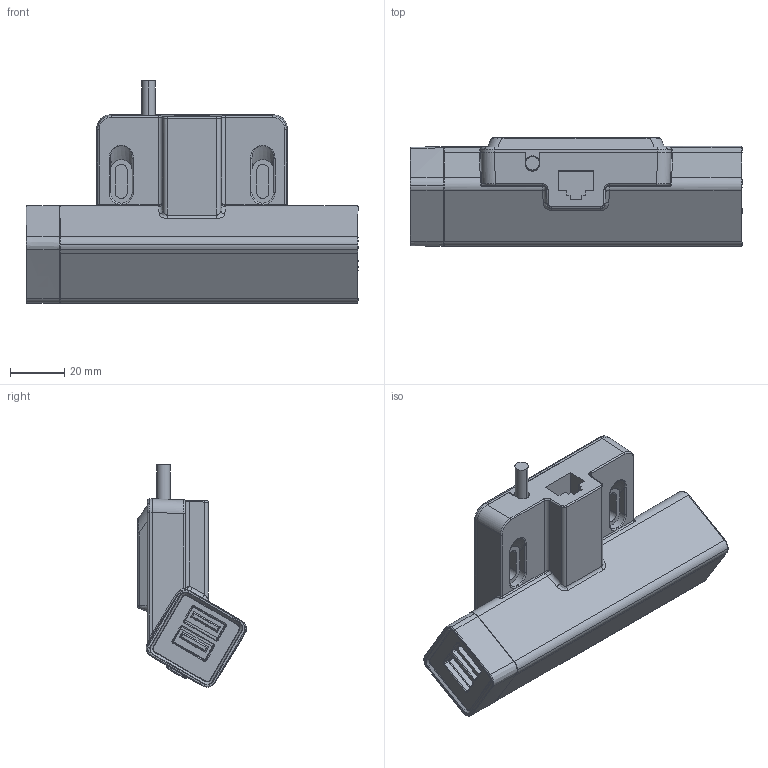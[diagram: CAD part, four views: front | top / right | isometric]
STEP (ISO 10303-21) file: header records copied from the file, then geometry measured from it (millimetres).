
FILE_DESCRIPTION (( 'STEP AP203' ), '1' );
FILE_NAME ('3D_TDH20P.STEP', '2019-11-29T05:48:37', ( '' ), ( '' ), 'SwSTEP 2.0', 'SolidWorks 2015', '' );
FILE_SCHEMA (( 'CONFIG_CONTROL_DESIGN' ));
Length unit declared in the file: millimetre
Products named in the file (1): 3D_TDH20P
Bounding box: 122 x 39.97 x 81.68 mm (x, y, z)
Surface area: 49111.5 mm2 (no closed solid volume)
Topology: 0 solids, 16 shells, 806 faces, 2024 edges, 1259 vertices
Faces by surface type: plane 329, cylinder 269, torus 103, bspline 75, cone 24, sphere 6
Entity records: 29236 total; most frequent: CARTESIAN_POINT 10485, ORIENTED_EDGE 4032, DIRECTION 3763, EDGE_CURVE 2022, AXIS2_PLACEMENT_3D 1341, VERTEX_POINT 1259, VECTOR 1081, LINE 1081
